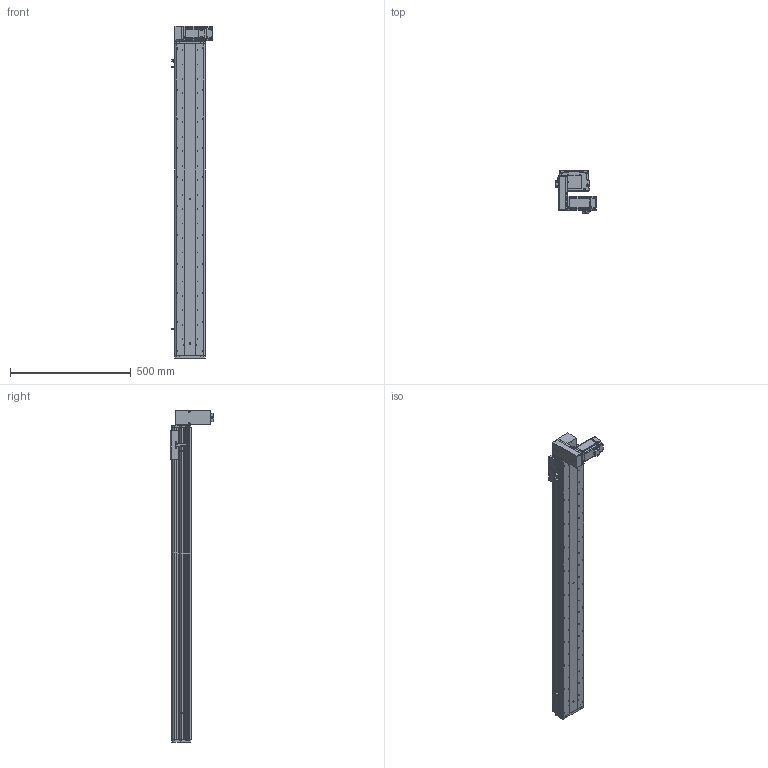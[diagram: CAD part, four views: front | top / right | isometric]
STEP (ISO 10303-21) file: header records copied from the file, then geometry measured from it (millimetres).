
FILE_DESCRIPTION (( 'STEP AP214' ), '1' );
FILE_NAME ('KSD125B-S1100-MRD-CM.STEP', '2017-10-21T06:28:40', ( '微软用户' ), ( '微软中国' ), 'SwSTEP 2.0', 'SolidWorks 2014', '' );
FILE_SCHEMA (( 'AUTOMOTIVE_DESIGN' ));
Length unit declared in the file: millimetre
Products named in the file (17): HTPA30S3M150_A_H6_a萇儂蚚; 100宽马达安装板连板上下折丝杆同步带; KSD125模组1100行程同步带-防尘盖; 125模组1100行程同步带-底板; MHMD042G1CA_2_03; KSD125模组同步带-防撞垫2; 覜茼え68遵圉猾敕; U倰嫖萇假蚾璃; U倰嫖萇EEㄜSX672; KSD125模组同步带-防撞垫1; 100宽马达安装板同步带右; 前端板-125宽模组同步带; 125模组同步带-尾端板1; KSD125模组同步带-滑动座1; KSD125B-S1100-MRD-CM; 悵誘欶奻狟殏; HTPA30S3M150_A_H6_a佪裝蚚
Assembly tree (20 placements, depth 2):
  KSD125B-S1100-MRD-CM
    KSD125模组同步带-滑动座1
    125模组同步带-尾端板1
    前端板-125宽模组同步带
    100宽马达安装板同步带右
    KSD125模组同步带-防撞垫1
    U倰嫖萇EEㄜSX672  x3
    U倰嫖萇假蚾璃  x3
    覜茼え68遵圉猾敕
    KSD125模组同步带-防撞垫2
    MHMD042G1CA_2_03
    125模组1100行程同步带-底板
    KSD125模组1100行程同步带-防尘盖
    100宽马达安装板连板上下折丝杆同步带
    HTPA30S3M150_A_H6_a萇儂蚚
    HTPA30S3M150_A_H6_a佪裝蚚
    悵誘欶奻狟殏
Bounding box: 168.7 x 179.5 x 1377 mm (x, y, z)
Volume: 4192860.2 mm3; surface area: 1404672 mm2
Topology: 19 solids, 22 shells, 2329 faces, 6751 edges, 4462 vertices
Faces by surface type: cylinder 1472, plane 730, cone 105, bspline 22
Entity records: 83093 total; most frequent: CARTESIAN_POINT 16377, DIRECTION 12912, ORIENTED_EDGE 12022, EDGE_CURVE 6089, AXIS2_PLACEMENT_3D 5001, VERTEX_POINT 4054, LINE 2910, VECTOR 2910
